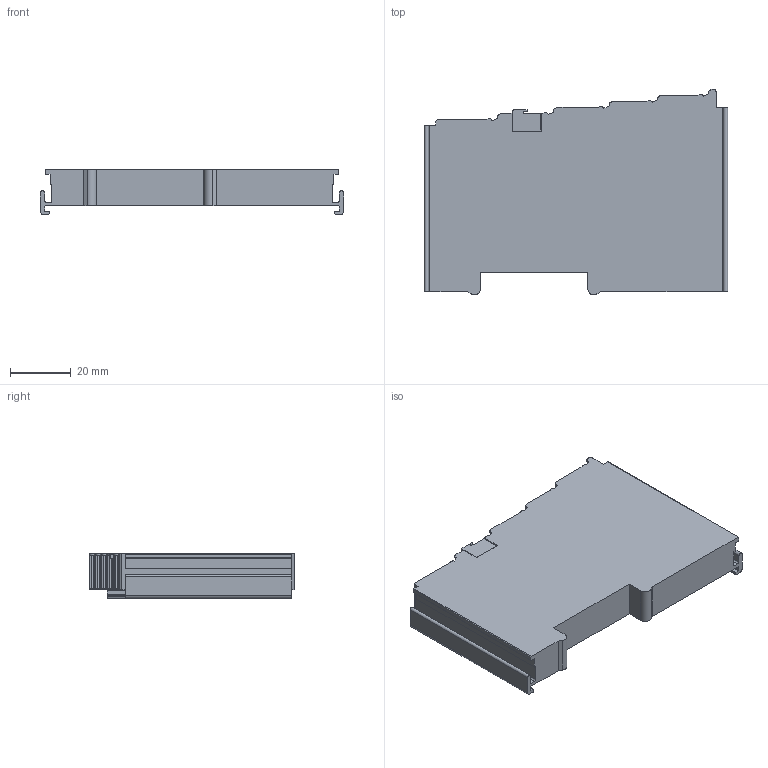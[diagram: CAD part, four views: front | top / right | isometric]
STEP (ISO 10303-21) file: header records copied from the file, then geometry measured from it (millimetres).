
FILE_DESCRIPTION(/* description */ ('STEP AP214'),/* implementation_level */ '2;1');
FILE_NAME(/* name */ '750-517',/* time_stamp */ '2022-08-18T15:07:38+02:00',/* author */ ('License CC BY-ND 4.0'),/* organization */ ('CADENAS'),/* preprocessor_version */ 'ST-DEVELOPER v18.102',/* originating_system */ 'PARTsolutions',/* authorisation */ ' ');
FILE_SCHEMA (('AUTOMOTIVE_DESIGN {1 0 10303 214 3 1 1}'));
Length unit declared in the file: millimetre
Products named in the file (1): 750-517
Bounding box: 100 x 67.8 x 14.8 mm (x, y, z)
Volume: 66257.9 mm3; surface area: 18668.9 mm2
Topology: 1 solids, 1 shells, 269 faces, 755 edges, 498 vertices
Faces by surface type: plane 167, cylinder 86, cone 16
Entity records: 10604 total; most frequent: CARTESIAN_POINT 1606, ORIENTED_EDGE 1510, DIRECTION 1473, EDGE_CURVE 755, LINE 527, VECTOR 527, VERTEX_POINT 498, AXIS2_PLACEMENT_3D 473
